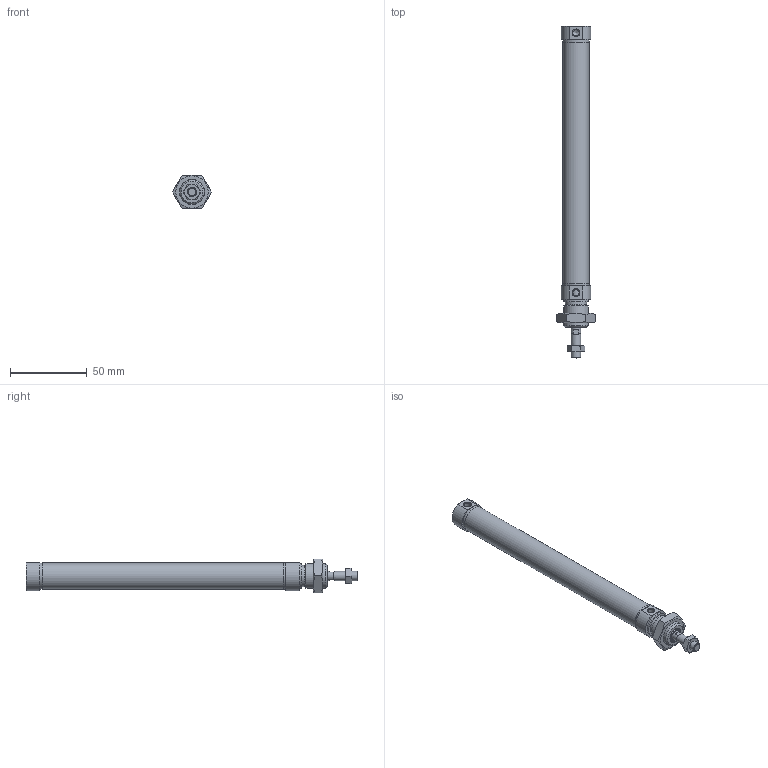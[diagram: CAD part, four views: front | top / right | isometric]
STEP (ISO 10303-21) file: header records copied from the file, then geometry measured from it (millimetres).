
FILE_DESCRIPTION(/* description */ ('Unknown'),/* implementation_level */ '2;1');
FILE_NAME(/* name */ 'RIMR 16_125',/* time_stamp */ '2024-08-29T14:38:02+02:00',/* author */ ('Unknown'),/* organization */ ('Unknown'),/* preprocessor_version */ 'ST-DEVELOPER v16.7',/* originating_system */ 'Solid Edge',/* authorisation */ 'Unknown');
FILE_SCHEMA (('AUTOMOTIVE_DESIGN {1 0 10303 214 3 1 1}'));
Length unit declared in the file: millimetre
Products named in the file (7): RIMR 16_125; Profilrohr; Kolbenstange; Kit_1; Kit_2; Mutter_1; Mutter_2
Assembly tree (6 placements, depth 2):
  RIMR 16_125
    Profilrohr
    Kolbenstange
    Kit_1
    Kit_2
    Mutter_1
    Mutter_2
Bounding box: 25.4 x 216 x 22 mm (x, y, z)
Volume: 26815.4 mm3; surface area: 27406 mm2
Topology: 6 solids, 6 shells, 123 faces, 248 edges, 152 vertices
Faces by surface type: plane 50, cone 37, cylinder 29, torus 7
Full cylindrical faces by diameter (mm): 1.1 x1, 4 x1, 4.12 x2, 4.134 x2, 4.917 x1, 6 x2, 6.5 x1, 7.1 x1, 9 x1, 9.1 x1, 11.1 x1, 11.2 x1, 13.7 x1, 14.376 x1, 14.5 x1, 16 x5, 17.2 x2, 17.27 x1
Entity records: 3741 total; most frequent: CARTESIAN_POINT 545, DIRECTION 500, ORIENTED_EDGE 352, AXIS2_PLACEMENT_3D 232, FACE_BOUND 205, EDGE_LOOP 204, EDGE_CURVE 176, VERTEX_POINT 139
